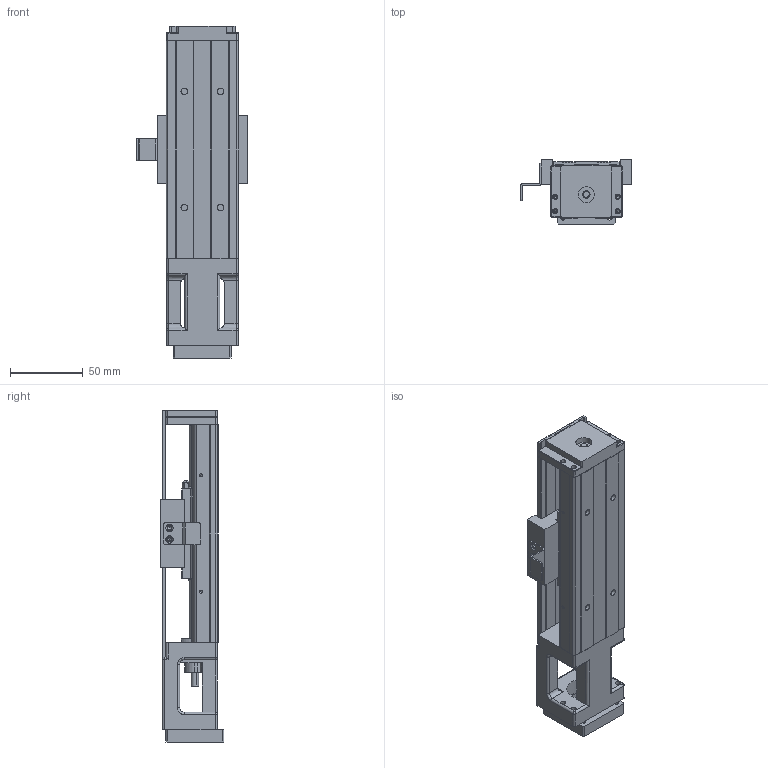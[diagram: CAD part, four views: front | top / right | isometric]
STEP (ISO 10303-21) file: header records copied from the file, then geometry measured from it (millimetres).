
FILE_DESCRIPTION (( 'STEP AP203' ), '1' );
FILE_NAME ('SK50-02-150.step', '2023-01-14T07:18:58', ( '' ), ( '' ), 'SwSTEP 2.0', 'SolidWorks 2018', '' );
FILE_SCHEMA (( 'CONFIG_CONTROL_DESIGN' ));
Length unit declared in the file: millimetre
Products named in the file (14): ______KK-50-CV-150.STEP; KK50-A1____.STEP; 671____KK-50-S1-D1.STEP; KK50____.STEP; KK50______-1.STEP; KK50__________.STEP; KK50________.STEP; SK50-02-150-M-5-PU.STEP; KK50______-2.STEP; SK50-02-150; ____KK-50-F2.STEP; KK50-150____.STEP; ______KK-50-FS.STEP; KK50-150____-0.STEP
Assembly tree (13 placements, depth 3):
  SK50-02-150
    SK50-02-150-M-5-PU.STEP
      KK50-150____.STEP
      KK50-150____-0.STEP
      KK50-A1____.STEP
      KK50____.STEP
      KK50______-1.STEP
      KK50__________.STEP
      KK50________.STEP
      KK50______-2.STEP
      ____KK-50-F2.STEP
      ______KK-50-FS.STEP
      ______KK-50-CV-150.STEP
      671____KK-50-S1-D1.STEP
Bounding box: 76.3 x 44 x 228.5 mm (x, y, z)
Volume: 226303.3 mm3; surface area: 101743.9 mm2
Topology: 12 solids, 17 shells, 906 faces, 2386 edges, 1466 vertices
Faces by surface type: cylinder 426, plane 302, cone 110, bspline 68
Entity records: 31093 total; most frequent: CARTESIAN_POINT 7819, ORIENTED_EDGE 4584, DIRECTION 4502, EDGE_CURVE 2292, AXIS2_PLACEMENT_3D 1637, VERTEX_POINT 1466, LINE 1228, VECTOR 1228
